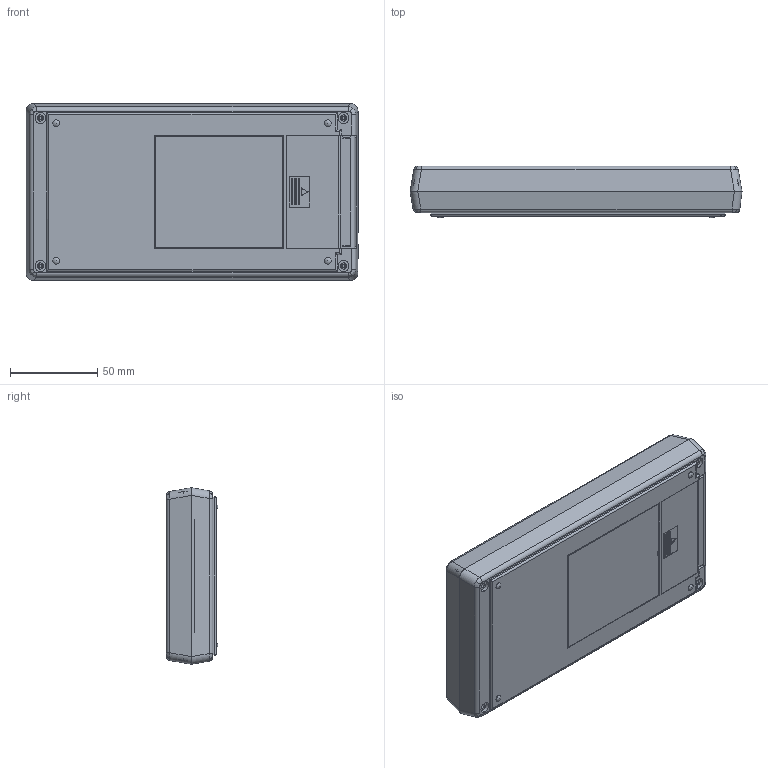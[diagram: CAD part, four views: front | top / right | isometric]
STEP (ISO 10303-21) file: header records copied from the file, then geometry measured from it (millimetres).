
FILE_DESCRIPTION (( 'STEP AP214' ), '1' );
FILE_NAME ('100-41-2A-R.STEP', '2019-11-29T23:34:36', ( 'Rudy' ), ( '' ), 'SwSTEP 2.0', 'SolidWorks 2014', '' );
FILE_SCHEMA (( 'AUTOMOTIVE_DESIGN' ));
Length unit declared in the file: inch
Products named in the file (4): 2AAdoor; 100-04-recessed Top; 100-01 BOT-2AA; 100-41-2A-R
Assembly tree (3 placements, depth 2):
  100-41-2A-R
    100-01 BOT-2AA
    100-04-recessed Top
    2AAdoor
Bounding box: 190.6 x 29.7 x 101.4 mm (x, y, z)
Volume: 111946 mm3; surface area: 119846.8 mm2
Topology: 3 solids, 3 shells, 747 faces, 2010 edges, 1268 vertices
Faces by surface type: plane 461, cylinder 200, bspline 44, cone 26, torus 12, sphere 4
Entity records: 24373 total; most frequent: CARTESIAN_POINT 6177, ORIENTED_EDGE 3940, DIRECTION 3493, EDGE_CURVE 1970, LINE 1429, VECTOR 1429, VERTEX_POINT 1260, AXIS2_PLACEMENT_3D 1032
